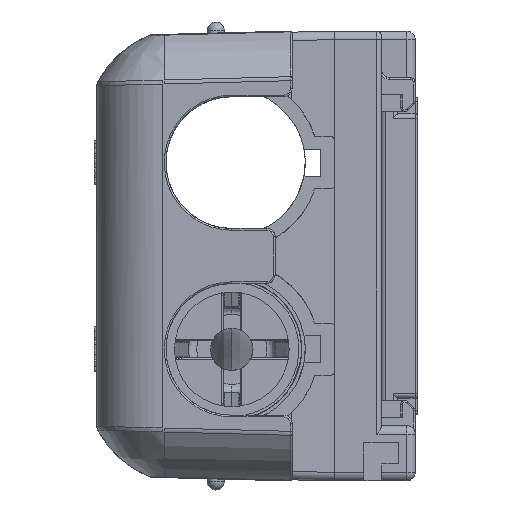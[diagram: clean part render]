
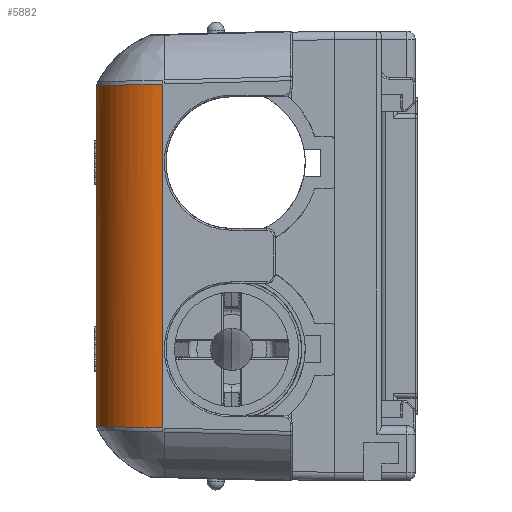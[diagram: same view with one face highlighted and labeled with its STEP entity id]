
A CAD part, left-side view. The second image highlights one B-rep face of the part: STEP entity #5882.
In plain terms, the highlighted cylindrical face has radius 8 mm (diameter 16 mm), a partial arc.
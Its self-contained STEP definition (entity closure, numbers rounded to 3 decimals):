
#178 = B_SPLINE_CURVE_WITH_KNOTS ( 'NONE', 3,
 ( #6187, #60665, #11895, #24579, #24945, #63010, #13548, #56982, #22569, #33628, #49986, #2838, #19227, #44670, #41319, #34922, #62314, #18871, #46296, #28281, #27937, #2502, #44315, #17233, #35274, #55319, #29961, #39312, #6531, #35625, #22929, #68381, #66371 ),
 .UNSPECIFIED., .F., .F.,
 ( 4, 2, 2, 2, 1, 1, 1, 1, 2, 2, 2, 2, 2, 1, 1, 1, 2, 2, 2, 4 ),
 ( 0., 0.125, 0.187, 0.219, 0.234, 0.242, 0.246, 0.248, 0.249, 0.25, 0.375, 0.437, 0.469, 0.484, 0.492, 0.496, 0.498, 0.5, 0.75, 1. ),
 .UNSPECIFIED. ) ;
#2502 = CARTESIAN_POINT ( 'NONE',  ( -95.794, 31.021, 20.12 ) ) ;
#2838 = CARTESIAN_POINT ( 'NONE',  ( -97.342, 28.688, 20.181 ) ) ;
#3825 = CARTESIAN_POINT ( 'NONE',  ( -97.33, 28.714, -20.181 ) ) ;
#3938 = CARTESIAN_POINT ( 'NONE',  ( -98.002, 25.709, 20.26 ) ) ;
#4635 = DIRECTION ( 'NONE',  ( 0., 0., 1. ) ) ;
#4797 = CARTESIAN_POINT ( 'NONE',  ( -98.002, 25.709, -20.26 ) ) ;
#5882 = ADVANCED_FACE ( 'NONE', ( #66510 ), #39123, .T. ) ;
#6187 = CARTESIAN_POINT ( 'NONE',  ( -98.002, 25.709, 20.26 ) ) ;
#6531 = CARTESIAN_POINT ( 'NONE',  ( -94.81, 31.987, 20.095 ) ) ;
#9191 = CARTESIAN_POINT ( 'NONE',  ( -97.233, 28.93, -20.175 ) ) ;
#9540 = CARTESIAN_POINT ( 'NONE',  ( -95.544, 31.272, -20.114 ) ) ;
#9892 = CARTESIAN_POINT ( 'NONE',  ( -90.004, 33.5, -20.055 ) ) ;
#9995 = LINE ( 'NONE', #36357, #49962 ) ;
#10602 = CARTESIAN_POINT ( 'NONE',  ( -97.095, 29.208, -20.168 ) ) ;
#11895 = CARTESIAN_POINT ( 'NONE',  ( -97.887, 26.959, 20.227 ) ) ;
#13548 = CARTESIAN_POINT ( 'NONE',  ( -97.482, 28.346, 20.19 ) ) ;
#14518 = CARTESIAN_POINT ( 'NONE',  ( -94.553, 32.087, -20.092 ) ) ;
#15236 = CARTESIAN_POINT ( 'NONE',  ( -97.635, 27.959, -20.201 ) ) ;
#15539 = VERTEX_POINT ( 'NONE', #26814 ) ;
#17233 = CARTESIAN_POINT ( 'NONE',  ( -95.66, 31.159, 20.117 ) ) ;
#17596 = VECTOR ( 'NONE', #36469, 1000. ) ;
#17709 = CARTESIAN_POINT ( 'NONE',  ( -90.004, 25.5, -95.591 ) ) ;
#18871 = CARTESIAN_POINT ( 'NONE',  ( -96.393, 30.322, 20.139 ) ) ;
#19227 = CARTESIAN_POINT ( 'NONE',  ( -97.339, 28.696, 20.181 ) ) ;
#20214 = CARTESIAN_POINT ( 'NONE',  ( -90.978, 33.5, -20.055 ) ) ;
#20532 = B_SPLINE_CURVE_WITH_KNOTS ( 'NONE', 3,
 ( #9892, #20214, #30938, #58328, #21267, #14518, #70045, #57966, #48006, #53326, #68664, #9540, #52629, #52276, #47639, #20932, #25229, #36251, #58660, #31280, #10602, #64020, #9191, #42651, #46938, #25570, #41594, #3825, #47286, #25919, #15236, #69010, #36955, #64707 ),
 .UNSPECIFIED., .F., .F.,
 ( 4, 2, 2, 2, 1, 1, 1, 1, 2, 2, 2, 2, 2, 1, 1, 1, 1, 2, 2, 2, 4 ),
 ( 0., 0.25, 0.375, 0.437, 0.469, 0.484, 0.492, 0.496, 0.498, 0.5, 0.625, 0.687, 0.719, 0.734, 0.742, 0.746, 0.748, 0.749, 0.75, 0.875, 1. ),
 .UNSPECIFIED. ) ;
#20932 = CARTESIAN_POINT ( 'NONE',  ( -95.921, 30.905, -20.123 ) ) ;
#21267 = CARTESIAN_POINT ( 'NONE',  ( -93.885, 32.516, -20.081 ) ) ;
#22569 = CARTESIAN_POINT ( 'NONE',  ( -97.398, 28.555, 20.185 ) ) ;
#22921 = ORIENTED_EDGE ( 'NONE', *, *, #65997, .T. ) ;
#22929 = CARTESIAN_POINT ( 'NONE',  ( -91.984, 33.319, 20.06 ) ) ;
#24579 = CARTESIAN_POINT ( 'NONE',  ( -97.698, 27.707, 20.207 ) ) ;
#24945 = CARTESIAN_POINT ( 'NONE',  ( -97.628, 27.936, 20.201 ) ) ;
#25229 = CARTESIAN_POINT ( 'NONE',  ( -96.244, 30.534, -20.133 ) ) ;
#25570 = CARTESIAN_POINT ( 'NONE',  ( -97.321, 28.734, -20.18 ) ) ;
#25782 = VERTEX_POINT ( 'NONE', #45728 ) ;
#25919 = CARTESIAN_POINT ( 'NONE',  ( -97.48, 28.372, -20.19 ) ) ;
#26814 = CARTESIAN_POINT ( 'NONE',  ( -90.004, 33.5, -20.055 ) ) ;
#27108 = AXIS2_PLACEMENT_3D ( 'NONE', #17709, #44114, #56170 ) ;
#27583 = VERTEX_POINT ( 'NONE', #3938 ) ;
#27937 = CARTESIAN_POINT ( 'NONE',  ( -95.917, 30.89, 20.124 ) ) ;
#28281 = CARTESIAN_POINT ( 'NONE',  ( -95.998, 30.8, 20.126 ) ) ;
#29210 = EDGE_CURVE ( 'NONE', #15539, #25782, #63510, .T. ) ;
#29961 = CARTESIAN_POINT ( 'NONE',  ( -95.597, 31.22, 20.115 ) ) ;
#30938 = CARTESIAN_POINT ( 'NONE',  ( -91.981, 33.32, -20.06 ) ) ;
#31280 = CARTESIAN_POINT ( 'NONE',  ( -97.03, 29.328, -20.165 ) ) ;
#33628 = CARTESIAN_POINT ( 'NONE',  ( -97.366, 28.632, 20.183 ) ) ;
#34922 = CARTESIAN_POINT ( 'NONE',  ( -97.108, 29.222, 20.167 ) ) ;
#35274 = CARTESIAN_POINT ( 'NONE',  ( -95.623, 31.195, 20.116 ) ) ;
#35625 = CARTESIAN_POINT ( 'NONE',  ( -93.899, 32.563, 20.08 ) ) ;
#36251 = CARTESIAN_POINT ( 'NONE',  ( -96.689, 29.903, -20.15 ) ) ;
#36357 = CARTESIAN_POINT ( 'NONE',  ( -98.002, 25.709, -20.26 ) ) ;
#36469 = DIRECTION ( 'NONE',  ( 0., 0., 1. ) ) ;
#36955 = CARTESIAN_POINT ( 'NONE',  ( -97.984, 26.375, -20.242 ) ) ;
#39123 = CYLINDRICAL_SURFACE ( 'NONE', #27108, 8. ) ;
#39141 = ORIENTED_EDGE ( 'NONE', *, *, #49223, .T. ) ;
#39312 = CARTESIAN_POINT ( 'NONE',  ( -95.593, 31.225, 20.115 ) ) ;
#40215 = EDGE_CURVE ( 'NONE', #27583, #25782, #178, .T. ) ;
#41319 = CARTESIAN_POINT ( 'NONE',  ( -97.336, 28.702, 20.181 ) ) ;
#41594 = CARTESIAN_POINT ( 'NONE',  ( -97.327, 28.722, -20.181 ) ) ;
#42651 = CARTESIAN_POINT ( 'NONE',  ( -97.284, 28.819, -20.178 ) ) ;
#44114 = DIRECTION ( 'NONE',  ( 0., 0., -1. ) ) ;
#44315 = CARTESIAN_POINT ( 'NONE',  ( -95.732, 31.085, 20.119 ) ) ;
#44670 = CARTESIAN_POINT ( 'NONE',  ( -97.336, 28.701, 20.181 ) ) ;
#45728 = CARTESIAN_POINT ( 'NONE',  ( -90.004, 33.5, 20.055 ) ) ;
#46296 = CARTESIAN_POINT ( 'NONE',  ( -96.238, 30.52, 20.133 ) ) ;
#46938 = CARTESIAN_POINT ( 'NONE',  ( -97.309, 28.763, -20.18 ) ) ;
#47286 = CARTESIAN_POINT ( 'NONE',  ( -97.333, 28.709, -20.181 ) ) ;
#47639 = CARTESIAN_POINT ( 'NONE',  ( -95.581, 31.236, -20.115 ) ) ;
#48006 = CARTESIAN_POINT ( 'NONE',  ( -95.239, 31.552, -20.106 ) ) ;
#49223 = EDGE_CURVE ( 'NONE', #62111, #27583, #9995, .T. ) ;
#49962 = VECTOR ( 'NONE', #4635, 1000. ) ;
#49986 = CARTESIAN_POINT ( 'NONE',  ( -97.35, 28.669, 20.182 ) ) ;
#51261 = ORIENTED_EDGE ( 'NONE', *, *, #29210, .F. ) ;
#52276 = CARTESIAN_POINT ( 'NONE',  ( -95.574, 31.242, -20.114 ) ) ;
#52629 = CARTESIAN_POINT ( 'NONE',  ( -95.562, 31.254, -20.114 ) ) ;
#53326 = CARTESIAN_POINT ( 'NONE',  ( -95.415, 31.394, -20.111 ) ) ;
#55319 = CARTESIAN_POINT ( 'NONE',  ( -95.608, 31.21, 20.115 ) ) ;
#56170 = DIRECTION ( 'NONE',  ( 0., 1., 0. ) ) ;
#56982 = CARTESIAN_POINT ( 'NONE',  ( -97.426, 28.487, 20.187 ) ) ;
#57966 = CARTESIAN_POINT ( 'NONE',  ( -95.084, 31.682, -20.103 ) ) ;
#58328 = CARTESIAN_POINT ( 'NONE',  ( -93.418, 32.754, -20.075 ) ) ;
#58660 = CARTESIAN_POINT ( 'NONE',  ( -96.831, 29.68, -20.156 ) ) ;
#60665 = CARTESIAN_POINT ( 'NONE',  ( -97.984, 26.373, 20.242 ) ) ;
#62111 = VERTEX_POINT ( 'NONE', #4797 ) ;
#62314 = CARTESIAN_POINT ( 'NONE',  ( -96.838, 29.691, 20.155 ) ) ;
#63010 = CARTESIAN_POINT ( 'NONE',  ( -97.519, 28.248, 20.193 ) ) ;
#63154 = CARTESIAN_POINT ( 'NONE',  ( -90.004, 33.5, -20.055 ) ) ;
#63510 = LINE ( 'NONE', #63154, #17596 ) ;
#64020 = CARTESIAN_POINT ( 'NONE',  ( -97.187, 29.023, -20.173 ) ) ;
#64707 = CARTESIAN_POINT ( 'NONE',  ( -98.002, 25.709, -20.26 ) ) ;
#65997 = EDGE_CURVE ( 'NONE', #15539, #62111, #20532, .T. ) ;
#66371 = CARTESIAN_POINT ( 'NONE',  ( -90.004, 33.5, 20.055 ) ) ;
#66510 = FACE_OUTER_BOUND ( 'NONE', #67563, .T. ) ;
#67563 = EDGE_LOOP ( 'NONE', ( #39141, #68830, #51261, #22921 ) ) ;
#68381 = CARTESIAN_POINT ( 'NONE',  ( -90.98, 33.5, 20.055 ) ) ;
#68664 = CARTESIAN_POINT ( 'NONE',  ( -95.501, 31.313, -20.113 ) ) ;
#68830 = ORIENTED_EDGE ( 'NONE', *, *, #40215, .T. ) ;
#69010 = CARTESIAN_POINT ( 'NONE',  ( -97.887, 26.961, -20.227 ) ) ;
#70045 = CARTESIAN_POINT ( 'NONE',  ( -94.769, 31.932, -20.096 ) ) ;
